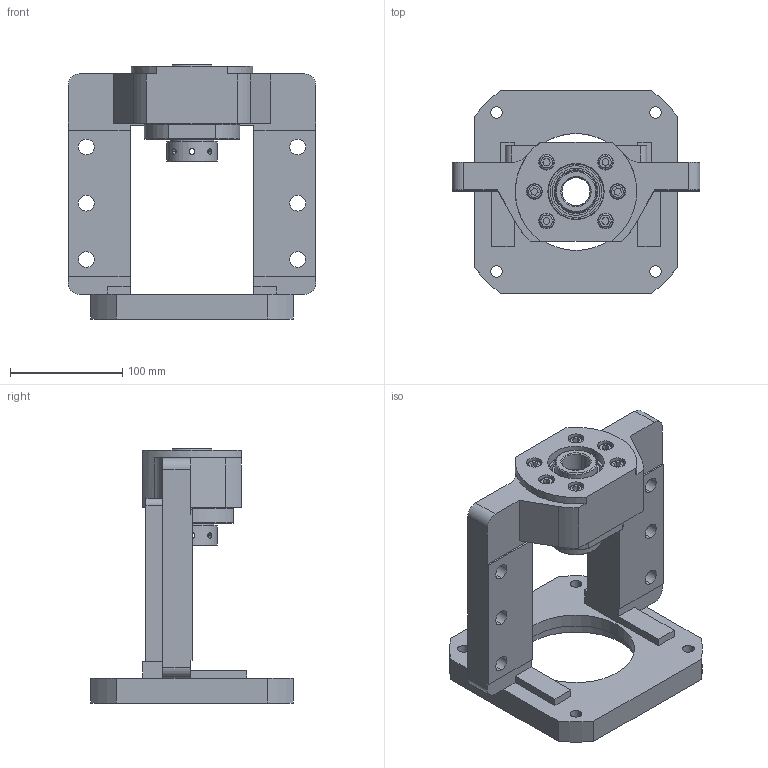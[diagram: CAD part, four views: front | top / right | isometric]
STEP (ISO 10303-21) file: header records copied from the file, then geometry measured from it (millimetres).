
FILE_DESCRIPTION (( 'STEP AP203' ), '1' );
FILE_NAME ('MBCS25L-H.STEP', '2024-10-16T00:46:37', ( '' ), ( '' ), 'SwSTEP 2.0', 'SolidWorks 2018', '' );
FILE_SCHEMA (( 'CONFIG_CONTROL_DESIGN' ));
Length unit declared in the file: millimetre
Products named in the file (1): MBCS25L-H
Bounding box: 220 x 180 x 226 mm (x, y, z)
Surface area: 213554.7 mm2 (no closed solid volume)
Topology: 0 solids, 22 shells, 338 faces, 945 edges, 620 vertices
Faces by surface type: cylinder 135, plane 117, cone 60, torus 26
Entity records: 12096 total; most frequent: CARTESIAN_POINT 3276, DIRECTION 1909, ORIENTED_EDGE 1657, EDGE_CURVE 937, AXIS2_PLACEMENT_3D 737, VERTEX_POINT 620, LINE 435, VECTOR 435
